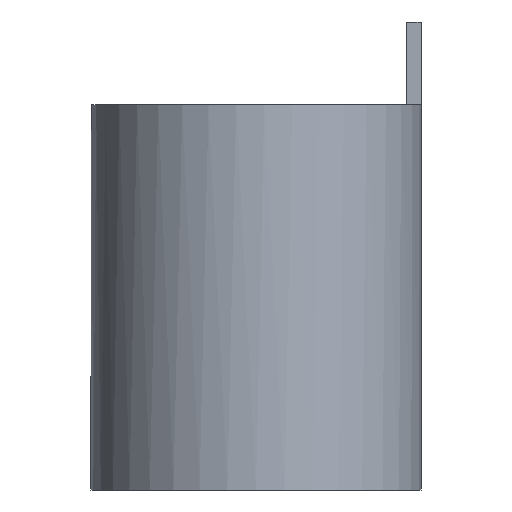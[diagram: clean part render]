
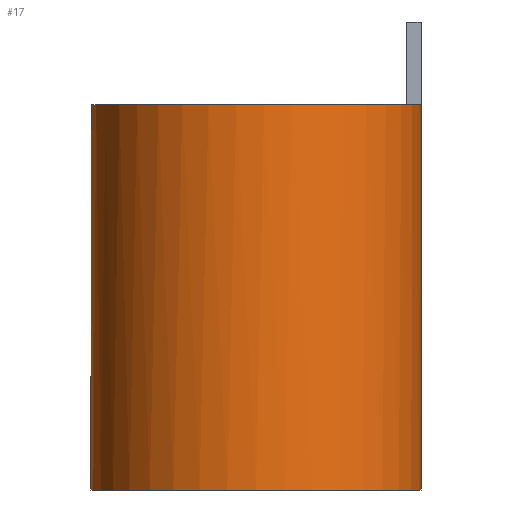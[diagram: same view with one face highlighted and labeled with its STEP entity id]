
A CAD part, front view. The second image highlights one B-rep face of the part: STEP entity #17.
In plain terms, the highlighted cylindrical face has radius 0.9 mm (diameter 1.8 mm), a full revolution.
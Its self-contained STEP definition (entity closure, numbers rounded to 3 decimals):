
#17 = ADVANCED_FACE('',(#18),#31,.T.);
#18 = FACE_BOUND('',#19,.F.);
#19 = EDGE_LOOP('',(#20,#54,#77,#106,#135,#162));
#20 = ORIENTED_EDGE('',*,*,#21,.F.);
#21 = EDGE_CURVE('',#22,#22,#24,.T.);
#22 = VERTEX_POINT('',#23);
#23 = CARTESIAN_POINT('',(0.9,0.,0.));
#24 = SURFACE_CURVE('',#25,(#30,#42),.PCURVE_S1.);
#25 = CIRCLE('',#26,0.9);
#26 = AXIS2_PLACEMENT_3D('',#27,#28,#29);
#27 = CARTESIAN_POINT('',(0.,0.,0.));
#28 = DIRECTION('',(0.,0.,1.));
#29 = DIRECTION('',(1.,0.,0.));
#30 = PCURVE('',#31,#36);
#31 = CYLINDRICAL_SURFACE('',#32,0.9);
#32 = AXIS2_PLACEMENT_3D('',#33,#34,#35);
#33 = CARTESIAN_POINT('',(0.,0.,0.));
#34 = DIRECTION('',(-0.,-0.,-1.));
#35 = DIRECTION('',(1.,0.,0.));
#36 = DEFINITIONAL_REPRESENTATION('',(#37),#41);
#37 = LINE('',#38,#39);
#38 = CARTESIAN_POINT('',(-0.,0.));
#39 = VECTOR('',#40,1.);
#40 = DIRECTION('',(-1.,0.));
#41 = ( GEOMETRIC_REPRESENTATION_CONTEXT(2) 
PARAMETRIC_REPRESENTATION_CONTEXT() REPRESENTATION_CONTEXT('2D SPACE',''
  ) );
#42 = PCURVE('',#43,#48);
#43 = PLANE('',#44);
#44 = AXIS2_PLACEMENT_3D('',#45,#46,#47);
#45 = CARTESIAN_POINT('',(0.,0.,0.));
#46 = DIRECTION('',(0.,0.,1.));
#47 = DIRECTION('',(1.,0.,-0.));
#48 = DEFINITIONAL_REPRESENTATION('',(#49),#53);
#49 = CIRCLE('',#50,0.9);
#50 = AXIS2_PLACEMENT_2D('',#51,#52);
#51 = CARTESIAN_POINT('',(0.,0.));
#52 = DIRECTION('',(1.,0.));
#53 = ( GEOMETRIC_REPRESENTATION_CONTEXT(2) 
PARAMETRIC_REPRESENTATION_CONTEXT() REPRESENTATION_CONTEXT('2D SPACE',''
  ) );
#54 = ORIENTED_EDGE('',*,*,#55,.T.);
#55 = EDGE_CURVE('',#22,#56,#58,.T.);
#56 = VERTEX_POINT('',#57);
#57 = CARTESIAN_POINT('',(0.9,0.,2.1));
#58 = SEAM_CURVE('',#59,(#63,#70),.PCURVE_S1.);
#59 = LINE('',#60,#61);
#60 = CARTESIAN_POINT('',(0.9,0.,0.));
#61 = VECTOR('',#62,1.);
#62 = DIRECTION('',(0.,0.,1.));
#63 = PCURVE('',#31,#64);
#64 = DEFINITIONAL_REPRESENTATION('',(#65),#69);
#65 = LINE('',#66,#67);
#66 = CARTESIAN_POINT('',(-6.283,0.));
#67 = VECTOR('',#68,1.);
#68 = DIRECTION('',(-0.,-1.));
#69 = ( GEOMETRIC_REPRESENTATION_CONTEXT(2) 
PARAMETRIC_REPRESENTATION_CONTEXT() REPRESENTATION_CONTEXT('2D SPACE',''
  ) );
#70 = PCURVE('',#31,#71);
#71 = DEFINITIONAL_REPRESENTATION('',(#72),#76);
#72 = LINE('',#73,#74);
#73 = CARTESIAN_POINT('',(-0.,0.));
#74 = VECTOR('',#75,1.);
#75 = DIRECTION('',(-0.,-1.));
#76 = ( GEOMETRIC_REPRESENTATION_CONTEXT(2) 
PARAMETRIC_REPRESENTATION_CONTEXT() REPRESENTATION_CONTEXT('2D SPACE',''
  ) );
#77 = ORIENTED_EDGE('',*,*,#78,.T.);
#78 = EDGE_CURVE('',#56,#79,#81,.T.);
#79 = VERTEX_POINT('',#80);
#80 = CARTESIAN_POINT('',(0.889,0.14,2.1));
#81 = SURFACE_CURVE('',#82,(#87,#94),.PCURVE_S1.);
#82 = CIRCLE('',#83,0.9);
#83 = AXIS2_PLACEMENT_3D('',#84,#85,#86);
#84 = CARTESIAN_POINT('',(0.,0.,2.1));
#85 = DIRECTION('',(0.,0.,1.));
#86 = DIRECTION('',(1.,0.,0.));
#87 = PCURVE('',#31,#88);
#88 = DEFINITIONAL_REPRESENTATION('',(#89),#93);
#89 = LINE('',#90,#91);
#90 = CARTESIAN_POINT('',(-0.,-2.1));
#91 = VECTOR('',#92,1.);
#92 = DIRECTION('',(-1.,0.));
#93 = ( GEOMETRIC_REPRESENTATION_CONTEXT(2) 
PARAMETRIC_REPRESENTATION_CONTEXT() REPRESENTATION_CONTEXT('2D SPACE',''
  ) );
#94 = PCURVE('',#95,#100);
#95 = PLANE('',#96);
#96 = AXIS2_PLACEMENT_3D('',#97,#98,#99);
#97 = CARTESIAN_POINT('',(0.86,0.,2.1));
#98 = DIRECTION('',(0.,0.,1.));
#99 = DIRECTION('',(1.,0.,-0.));
#100 = DEFINITIONAL_REPRESENTATION('',(#101),#105);
#101 = CIRCLE('',#102,0.9);
#102 = AXIS2_PLACEMENT_2D('',#103,#104);
#103 = CARTESIAN_POINT('',(-0.86,0.));
#104 = DIRECTION('',(1.,0.));
#105 = ( GEOMETRIC_REPRESENTATION_CONTEXT(2) 
PARAMETRIC_REPRESENTATION_CONTEXT() REPRESENTATION_CONTEXT('2D SPACE',''
  ) );
#106 = ORIENTED_EDGE('',*,*,#107,.T.);
#107 = EDGE_CURVE('',#79,#108,#110,.T.);
#108 = VERTEX_POINT('',#109);
#109 = CARTESIAN_POINT('',(0.889,-0.14,2.1));
#110 = SURFACE_CURVE('',#111,(#116,#123),.PCURVE_S1.);
#111 = CIRCLE('',#112,0.9);
#112 = AXIS2_PLACEMENT_3D('',#113,#114,#115);
#113 = CARTESIAN_POINT('',(0.,0.,2.1));
#114 = DIRECTION('',(0.,0.,1.));
#115 = DIRECTION('',(1.,0.,0.));
#116 = PCURVE('',#31,#117);
#117 = DEFINITIONAL_REPRESENTATION('',(#118),#122);
#118 = LINE('',#119,#120);
#119 = CARTESIAN_POINT('',(-0.,-2.1));
#120 = VECTOR('',#121,1.);
#121 = DIRECTION('',(-1.,0.));
#122 = ( GEOMETRIC_REPRESENTATION_CONTEXT(2) 
PARAMETRIC_REPRESENTATION_CONTEXT() REPRESENTATION_CONTEXT('2D SPACE',''
  ) );
#123 = PCURVE('',#124,#129);
#124 = PLANE('',#125);
#125 = AXIS2_PLACEMENT_3D('',#126,#127,#128);
#126 = CARTESIAN_POINT('',(0.,0.,2.1));
#127 = DIRECTION('',(0.,0.,1.));
#128 = DIRECTION('',(1.,0.,-0.));
#129 = DEFINITIONAL_REPRESENTATION('',(#130),#134);
#130 = CIRCLE('',#131,0.9);
#131 = AXIS2_PLACEMENT_2D('',#132,#133);
#132 = CARTESIAN_POINT('',(0.,0.));
#133 = DIRECTION('',(1.,0.));
#134 = ( GEOMETRIC_REPRESENTATION_CONTEXT(2) 
PARAMETRIC_REPRESENTATION_CONTEXT() REPRESENTATION_CONTEXT('2D SPACE',''
  ) );
#135 = ORIENTED_EDGE('',*,*,#136,.T.);
#136 = EDGE_CURVE('',#108,#56,#137,.T.);
#137 = SURFACE_CURVE('',#138,(#143,#150),.PCURVE_S1.);
#138 = CIRCLE('',#139,0.9);
#139 = AXIS2_PLACEMENT_3D('',#140,#141,#142);
#140 = CARTESIAN_POINT('',(0.,0.,2.1));
#141 = DIRECTION('',(0.,0.,1.));
#142 = DIRECTION('',(1.,0.,0.));
#143 = PCURVE('',#31,#144);
#144 = DEFINITIONAL_REPRESENTATION('',(#145),#149);
#145 = LINE('',#146,#147);
#146 = CARTESIAN_POINT('',(-0.,-2.1));
#147 = VECTOR('',#148,1.);
#148 = DIRECTION('',(-1.,0.));
#149 = ( GEOMETRIC_REPRESENTATION_CONTEXT(2) 
PARAMETRIC_REPRESENTATION_CONTEXT() REPRESENTATION_CONTEXT('2D SPACE',''
  ) );
#150 = PCURVE('',#151,#156);
#151 = PLANE('',#152);
#152 = AXIS2_PLACEMENT_3D('',#153,#154,#155);
#153 = CARTESIAN_POINT('',(0.86,0.,2.1));
#154 = DIRECTION('',(0.,0.,1.));
#155 = DIRECTION('',(1.,0.,-0.));
#156 = DEFINITIONAL_REPRESENTATION('',(#157),#161);
#157 = CIRCLE('',#158,0.9);
#158 = AXIS2_PLACEMENT_2D('',#159,#160);
#159 = CARTESIAN_POINT('',(-0.86,0.));
#160 = DIRECTION('',(1.,0.));
#161 = ( GEOMETRIC_REPRESENTATION_CONTEXT(2) 
PARAMETRIC_REPRESENTATION_CONTEXT() REPRESENTATION_CONTEXT('2D SPACE',''
  ) );
#162 = ORIENTED_EDGE('',*,*,#55,.F.);
